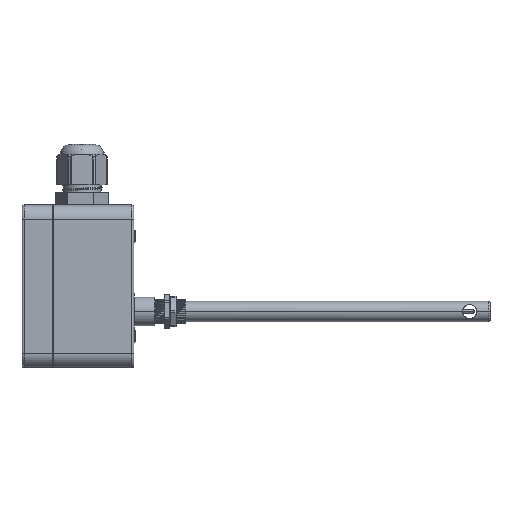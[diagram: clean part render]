
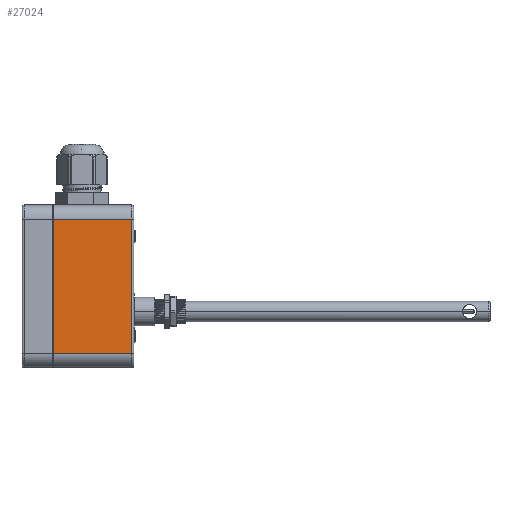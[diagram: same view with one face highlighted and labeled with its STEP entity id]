
A CAD part, left-side view. The second image highlights one B-rep face of the part: STEP entity #27024.
In plain terms, the highlighted planar face has unit normal (-1, 0, 0).
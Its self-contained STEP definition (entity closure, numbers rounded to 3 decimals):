
#493 = LINE ( 'NONE', #15067, #23734 ) ;
#953 = LINE ( 'NONE', #21638, #15271 ) ;
#1546 = VERTEX_POINT ( 'NONE', #14260 ) ;
#1963 = VECTOR ( 'NONE', #25732, 1000. ) ;
#4876 = LINE ( 'NONE', #7236, #7844 ) ;
#5015 = DIRECTION ( 'NONE',  ( 0., 1., 0. ) ) ;
#6714 = CARTESIAN_POINT ( 'NONE',  ( -42.5, -40., -33. ) ) ;
#6800 = DIRECTION ( 'NONE',  ( 0., 0., 1. ) ) ;
#7110 = ORIENTED_EDGE ( 'NONE', *, *, #26951, .F. ) ;
#7236 = CARTESIAN_POINT ( 'NONE',  ( -42.5, -0.6, -33. ) ) ;
#7365 = ORIENTED_EDGE ( 'NONE', *, *, #23989, .T. ) ;
#7844 = VECTOR ( 'NONE', #25976, 1000. ) ;
#8159 = CARTESIAN_POINT ( 'NONE',  ( -42.5, -39., 33. ) ) ;
#9176 = ORIENTED_EDGE ( 'NONE', *, *, #23079, .T. ) ;
#11147 = LINE ( 'NONE', #6714, #1963 ) ;
#13887 = EDGE_LOOP ( 'NONE', ( #21259, #9176, #7365, #7110 ) ) ;
#14260 = CARTESIAN_POINT ( 'NONE',  ( -42.5, -39., -33. ) ) ;
#15067 = CARTESIAN_POINT ( 'NONE',  ( -42.5, -40., 33. ) ) ;
#15271 = VECTOR ( 'NONE', #6800, 1000. ) ;
#15543 = CARTESIAN_POINT ( 'NONE',  ( -42.5, -40., -40. ) ) ;
#15562 = CARTESIAN_POINT ( 'NONE',  ( -42.5, -0.6, -33. ) ) ;
#17287 = DIRECTION ( 'NONE',  ( 0., 1., 0. ) ) ;
#17354 = PLANE ( 'NONE',  #18478 ) ;
#18333 = VERTEX_POINT ( 'NONE', #8159 ) ;
#18478 = AXIS2_PLACEMENT_3D ( 'NONE', #15543, #24019, #5015 ) ;
#20553 = VERTEX_POINT ( 'NONE', #15562 ) ;
#21259 = ORIENTED_EDGE ( 'NONE', *, *, #21446, .T. ) ;
#21446 = EDGE_CURVE ( 'NONE', #20553, #1546, #11147, .T. ) ;
#21638 = CARTESIAN_POINT ( 'NONE',  ( -42.5, -39., -40. ) ) ;
#23079 = EDGE_CURVE ( 'NONE', #1546, #18333, #953, .T. ) ;
#23734 = VECTOR ( 'NONE', #17287, 1000. ) ;
#23989 = EDGE_CURVE ( 'NONE', #18333, #26998, #493, .T. ) ;
#24019 = DIRECTION ( 'NONE',  ( -1., 0., 0. ) ) ;
#24668 = FACE_OUTER_BOUND ( 'NONE', #13887, .T. ) ;
#25732 = DIRECTION ( 'NONE',  ( 0., -1., 0. ) ) ;
#25976 = DIRECTION ( 'NONE',  ( 0., 0., 1. ) ) ;
#26113 = CARTESIAN_POINT ( 'NONE',  ( -42.5, -0.6, 33. ) ) ;
#26951 = EDGE_CURVE ( 'NONE', #20553, #26998, #4876, .T. ) ;
#26998 = VERTEX_POINT ( 'NONE', #26113 ) ;
#27024 = ADVANCED_FACE ( 'NONE', ( #24668 ), #17354, .T. ) ;
